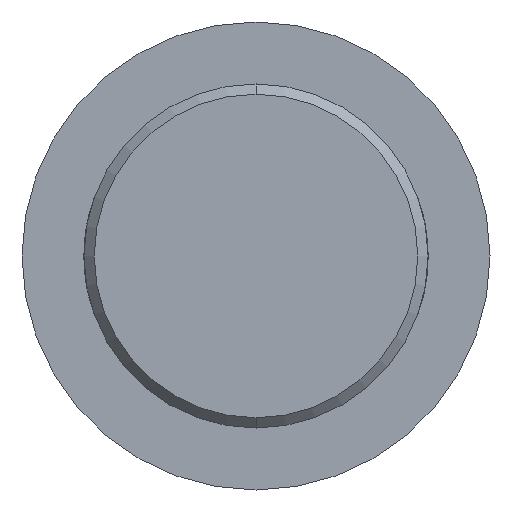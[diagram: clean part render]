
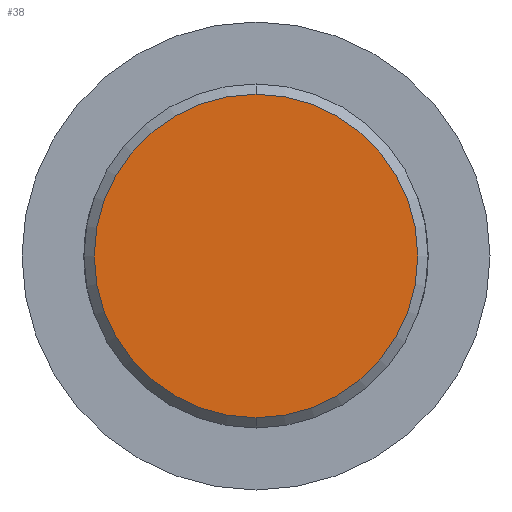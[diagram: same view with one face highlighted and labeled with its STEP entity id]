
A CAD part, front view. The second image highlights one B-rep face of the part: STEP entity #38.
In plain terms, the highlighted planar face has unit normal (0, -1, 0).
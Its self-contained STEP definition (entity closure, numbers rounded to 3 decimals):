
#7 = DIRECTION ( 'NONE',  ( 0., 0., -1. ) ) ;
#24 = DIRECTION ( 'NONE',  ( 0., 0., -1. ) ) ;
#31 = DIRECTION ( 'NONE',  ( 0., 0., -1. ) ) ;
#38 = ADVANCED_FACE ( 'NONE', ( #171 ), #504, .T. ) ;
#79 = EDGE_LOOP ( 'NONE', ( #383, #81 ) ) ;
#81 = ORIENTED_EDGE ( 'NONE', *, *, #367, .T. ) ;
#103 = DIRECTION ( 'NONE',  ( 0., -1., 0. ) ) ;
#171 = FACE_OUTER_BOUND ( 'NONE', #79, .T. ) ;
#175 = DIRECTION ( 'NONE',  ( 0., -1., 0. ) ) ;
#192 = CIRCLE ( 'NONE', #402, 11.75 ) ;
#208 = AXIS2_PLACEMENT_3D ( 'NONE', #229, #103, #24 ) ;
#216 = CARTESIAN_POINT ( 'NONE',  ( 0., -67., 11.75 ) ) ;
#229 = CARTESIAN_POINT ( 'NONE',  ( 0., -67., 0. ) ) ;
#231 = CIRCLE ( 'NONE', #208, 11.75 ) ;
#245 = VERTEX_POINT ( 'NONE', #216 ) ;
#247 = EDGE_CURVE ( 'NONE', #245, #457, #231, .T. ) ;
#322 = DIRECTION ( 'NONE',  ( 0., -1., 0. ) ) ;
#330 = CARTESIAN_POINT ( 'NONE',  ( 0., -67., -11.75 ) ) ;
#337 = CARTESIAN_POINT ( 'NONE',  ( 0., -67., 0. ) ) ;
#367 = EDGE_CURVE ( 'NONE', #457, #245, #192, .T. ) ;
#383 = ORIENTED_EDGE ( 'NONE', *, *, #247, .T. ) ;
#402 = AXIS2_PLACEMENT_3D ( 'NONE', #490, #322, #31 ) ;
#457 = VERTEX_POINT ( 'NONE', #330 ) ;
#489 = AXIS2_PLACEMENT_3D ( 'NONE', #337, #175, #7 ) ;
#490 = CARTESIAN_POINT ( 'NONE',  ( 0., -67., 0. ) ) ;
#504 = PLANE ( 'NONE',  #489 ) ;
